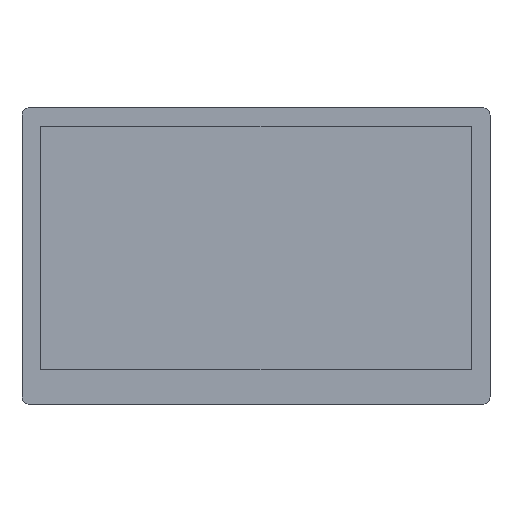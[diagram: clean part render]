
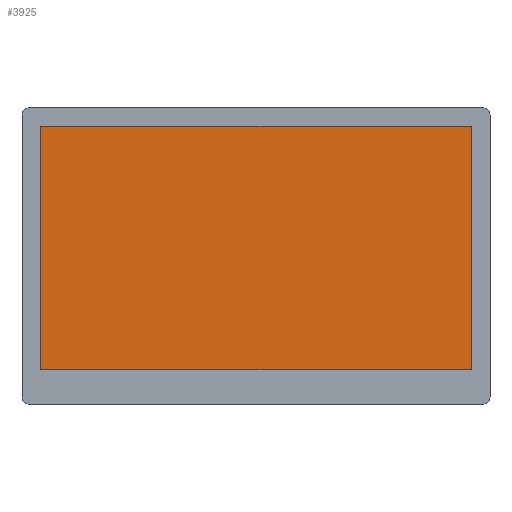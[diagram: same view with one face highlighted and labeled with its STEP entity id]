
A CAD part, top view. The second image highlights one B-rep face of the part: STEP entity #3925.
In plain terms, the highlighted planar face has unit normal (0, 0, 1).
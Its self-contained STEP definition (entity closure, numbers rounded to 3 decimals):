
#1106=DIRECTION('',(-1.,0.,0.));
#1107=VECTOR('',#1106,257.31);
#1108=CARTESIAN_POINT('',(128.655,72.7,1.05));
#1109=LINE('',#1108,#1107);
#1114=DIRECTION('',(0.,1.,0.));
#1115=VECTOR('',#1114,145.4);
#1116=CARTESIAN_POINT('',(128.655,-72.7,1.05));
#1117=LINE('',#1116,#1115);
#1122=DIRECTION('',(1.,0.,0.));
#1123=VECTOR('',#1122,257.31);
#1124=CARTESIAN_POINT('',(-128.655,-72.7,1.05));
#1125=LINE('',#1124,#1123);
#1130=DIRECTION('',(0.,-1.,0.));
#1131=VECTOR('',#1130,145.4);
#1132=CARTESIAN_POINT('',(-128.655,72.7,1.05));
#1133=LINE('',#1132,#1131);
#1380=CARTESIAN_POINT('',(128.655,72.7,1.05));
#1381=CARTESIAN_POINT('',(-128.655,72.7,1.05));
#1382=VERTEX_POINT('',#1380);
#1383=VERTEX_POINT('',#1381);
#1384=CARTESIAN_POINT('',(128.655,-72.7,1.05));
#1385=VERTEX_POINT('',#1384);
#1386=CARTESIAN_POINT('',(-128.655,-72.7,1.05));
#1387=VERTEX_POINT('',#1386);
#3911=CARTESIAN_POINT('',(0.,0.,1.05));
#3912=DIRECTION('',(0.,0.,1.));
#3913=DIRECTION('',(1.,0.,0.));
#3914=AXIS2_PLACEMENT_3D('',#3911,#3912,#3913);
#3915=PLANE('',#3914);
#3916=ORIENTED_EDGE('',*,*,#3894,.F.);
#3918=ORIENTED_EDGE('',*,*,#3917,.F.);
#3920=ORIENTED_EDGE('',*,*,#3919,.F.);
#3922=ORIENTED_EDGE('',*,*,#3921,.F.);
#3923=EDGE_LOOP('',(#3916,#3918,#3920,#3922));
#3924=FACE_OUTER_BOUND('',#3923,.F.);
#3925=ADVANCED_FACE('',(#3924),#3915,.T.);
#3894=EDGE_CURVE('',#1382,#1383,#1109,.T.);
#3917=EDGE_CURVE('',#1385,#1382,#1117,.T.);
#3919=EDGE_CURVE('',#1387,#1385,#1125,.T.);
#3921=EDGE_CURVE('',#1383,#1387,#1133,.T.);
